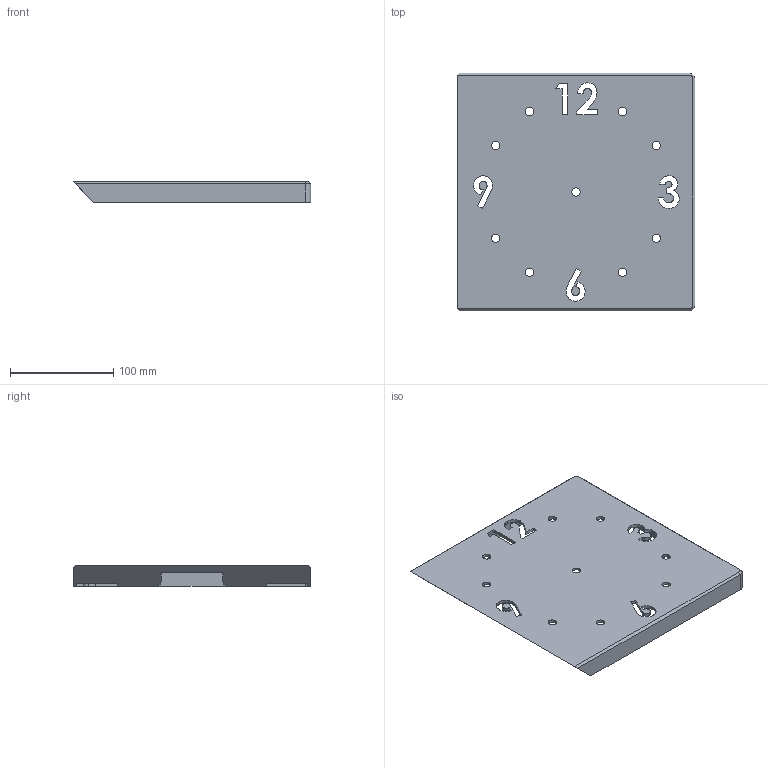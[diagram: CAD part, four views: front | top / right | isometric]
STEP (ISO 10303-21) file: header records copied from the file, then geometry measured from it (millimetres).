
FILE_DESCRIPTION (( 'STEP AP203' ), '1' );
FILE_NAME ('Corner Clock_2.STEP', '2024-12-16T12:23:38', ( '' ), ( '' ), 'SwSTEP 2.0', 'SolidWorks 2018', '' );
FILE_SCHEMA (( 'CONFIG_CONTROL_DESIGN' ));
Length unit declared in the file: millimetre
Products named in the file (1): Corner Clock_2
Bounding box: 230 x 230 x 20 mm (x, y, z)
Volume: 197142.4 mm3; surface area: 137521 mm2
Topology: 1 solids, 1 shells, 177 faces, 512 edges, 338 vertices
Faces by surface type: plane 75, cylinder 60, bspline 40, cone 2
Entity records: 7799 total; most frequent: CARTESIAN_POINT 3268, ORIENTED_EDGE 1024, DIRECTION 784, EDGE_CURVE 512, VERTEX_POINT 338, VECTOR 300, LINE 300, AXIS2_PLACEMENT_3D 242
